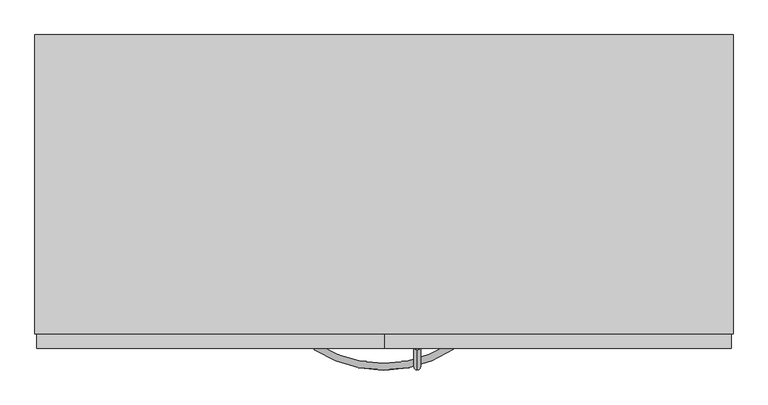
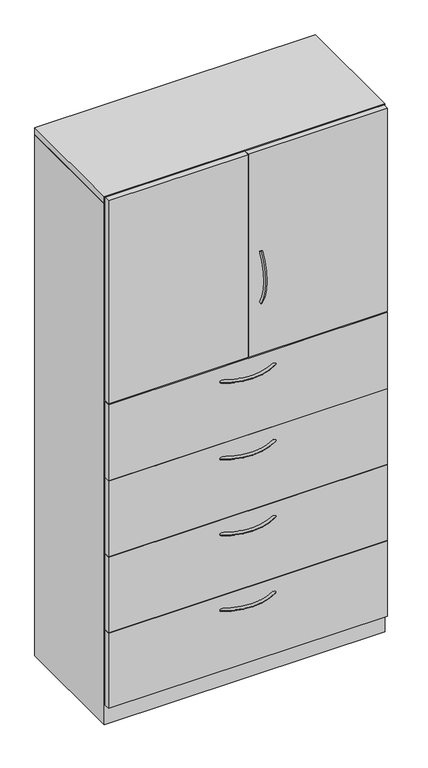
"""IFC4 building model written with IfcOpenShell, lengths in millimetres: furniture geometry, Steelcase - Universal Storage - Cabinet - Combination - Proud Steel : 83 1/2H - Hinged Doors/4 Drawers - 18 7/8D x 42W."""

import ifcopenshell
import ifcopenshell.guid

model = None  # the IFC model being written
_history = None  # IfcOwnerHistory: only IFC2X3 demands one
_inside = {}  # id of a spatial element -> (the spatial element, [elements in it])
_under = {}  # id of a project, library or spatial element -> (it, [spatial elements below it])
_declared = {}  # id of a project -> (the project, [libraries it declares])
_typed = {}  # id of a type object -> (the type object, [elements of that type])
_made_of = {}  # id of a material, layer set ... -> (it, [elements and type objects made of it])


def new_model(schema):
    """Start an empty IFC model of exactly this schema.

    Asked for "IFC4X3", IfcOpenShell would pick the latest addendum, in which some entities
    have other attributes; the version numbers below select the first issue.
    IFC2X3 requires an IfcOwnerHistory on every rooted entity: one is made here for all.
    """
    global model, _history
    if schema == "IFC4X3":
        model = ifcopenshell.file(schema_version=(4, 3, 0, 0))
    else:
        model = ifcopenshell.file(schema=schema)
    _inside.clear()
    _under.clear()
    _declared.clear()
    _typed.clear()
    _made_of.clear()
    _history = None
    if model.schema == "IFC2X3":
        org = make("IfcOrganization", Name="unknown")
        user = make(
            "IfcPersonAndOrganization",
            ThePerson=make("IfcPerson", FamilyName="unknown"),
            TheOrganization=org,
        )
        app = make(
            "IfcApplication",
            ApplicationDeveloper=org,
            Version="unknown",
            ApplicationFullName="unknown",
            ApplicationIdentifier="unknown",
        )
        _history = make(
            "IfcOwnerHistory",
            OwningUser=user,
            OwningApplication=app,
            ChangeAction="ADDED",
            CreationDate=0,
        )
    return model


def make(cls, **values):
    """One entity of the class cls with the attributes given. An attribute that is None is left unset."""
    return model.create_entity(
        cls, **{name: value for name, value in values.items() if value is not None}
    )


def rooted(cls, **values):
    """An entity with a GlobalId (a new one), such as an element, a storey or a relation."""
    return make(cls, GlobalId=ifcopenshell.guid.new(), OwnerHistory=_history, **values)


def si_unit(unit_type, name, prefix=None):
    """IfcSIUnit, for example si_unit("LENGTHUNIT", "METRE", prefix="MILLI")."""
    return make("IfcSIUnit", UnitType=unit_type, Prefix=prefix, Name=name)


def assignment(units):
    """IfcUnitAssignment: the units of a project."""
    return None if units is None else make("IfcUnitAssignment", Units=units)


def point(xyz):
    """IfcCartesianPoint."""
    return None if xyz is None else make("IfcCartesianPoint", Coordinates=xyz)


def direction(xyz):
    """IfcDirection."""
    return None if xyz is None else make("IfcDirection", DirectionRatios=xyz)


def frame(location, z_axis=None, x_axis=None):
    """IfcAxis2Placement3D, a coordinate frame: its origin and axes. An axis left out is left unset."""
    return make(
        "IfcAxis2Placement3D",
        Location=point(location),
        Axis=direction(z_axis),
        RefDirection=direction(x_axis),
    )


def origin():
    """The frame at (0, 0, 0) with its axes left unset."""
    return frame((0.0, 0.0, 0.0))


def place(relative_to, where):
    """IfcLocalPlacement: puts the frame where relative to a parent placement (None: the world)."""
    return make(
        "IfcLocalPlacement", PlacementRelTo=relative_to, RelativePlacement=where
    )


def context(
    kind, dimensions, precision=None, world=None, true_north=None, identifier=None
):
    """IfcGeometricRepresentationContext, for example the 3D "Model" context."""
    return make(
        "IfcGeometricRepresentationContext",
        ContextIdentifier=identifier,
        ContextType=kind,
        CoordinateSpaceDimension=dimensions,
        Precision=precision,
        WorldCoordinateSystem=world,
        TrueNorth=true_north,
    )


def project(units=None, contexts=None):
    """IfcProject with its units and contexts."""
    return rooted(
        "IfcProject",
        Name="project",
        RepresentationContexts=contexts,
        UnitsInContext=assignment(units),
    )


def spatial(cls, under=None, at=None, **own):
    """A site, building, storey or space (cls), placed at a placement, below another one or the project."""
    s = rooted(cls, ObjectPlacement=at, **own)
    if under is not None:
        _under.setdefault(under.id(), (under, []))[1].append(s)
    return s


def polyline(points):
    """IfcPolyline through the points."""
    return make("IfcPolyline", Points=[point(p) for p in points])


def circle_curve(where, radius):
    """IfcCircle in the frame where."""
    return make("IfcCircle", Position=where, Radius=radius)


def ellipse_curve(where, semi_axis1, semi_axis2):
    """IfcEllipse in the frame where."""
    return make(
        "IfcEllipse", Position=where, SemiAxis1=semi_axis1, SemiAxis2=semi_axis2
    )


def trimmed(basis, trim1, trim2, sense, master):
    """IfcTrimmedCurve: the piece of a basis curve between two trims."""
    return make(
        "IfcTrimmedCurve",
        BasisCurve=basis,
        Trim1=trim1,
        Trim2=trim2,
        SenseAgreement=sense,
        MasterRepresentation=master,
    )


def outline(outer, holes=None, kind="AREA"):
    """IfcArbitraryClosedProfileDef: a profile drawn as a closed curve; with holes, ...WithVoids."""
    if holes is None:
        return make("IfcArbitraryClosedProfileDef", ProfileType=kind, OuterCurve=outer)
    return make(
        "IfcArbitraryProfileDefWithVoids",
        ProfileType=kind,
        OuterCurve=outer,
        InnerCurves=holes,
    )


def extrude(swept, where, along, depth):
    """IfcExtrudedAreaSolid: the profile swept, set in the frame where, extruded along a direction by depth."""
    return make(
        "IfcExtrudedAreaSolid",
        SweptArea=swept,
        Position=where,
        ExtrudedDirection=direction(along),
        Depth=depth,
    )


def faces_of(points, faces, orient=None, outer=None):
    """IfcFace entities. A face is a list of loops; a loop is a list of indices into points, from 0.

    orient and outer hold one flag for each loop. By default every Orientation is true, the
    first loop of a face is its IfcFaceOuterBound and the others are IfcFaceBound.
    """
    made = []
    for i, loops in enumerate(faces):
        bounds = []
        for j, loop in enumerate(loops):
            is_outer = j == 0 if outer is None else outer[i][j]
            bounds.append(
                make(
                    "IfcFaceOuterBound" if is_outer else "IfcFaceBound",
                    Bound=make("IfcPolyLoop", Polygon=[points[k] for k in loop]),
                    Orientation=True if orient is None else orient[i][j],
                )
            )
        made.append(make("IfcFace", Bounds=bounds))
    return made


def faceted_brep(points, faces, orient=None, outer=None, voids=None):
    """IfcFacetedBrep: a solid bounded by flat faces; with voids (closed shells), ...WithVoids."""
    shared = [point(p) for p in points]
    hull = make("IfcClosedShell", CfsFaces=faces_of(shared, faces, orient, outer))
    if voids is None:
        return make("IfcFacetedBrep", Outer=hull)
    return make(
        "IfcFacetedBrepWithVoids",
        Outer=hull,
        Voids=[
            make(cls, CfsFaces=faces_of(shared, fs, o, b)) for cls, fs, o, b in voids
        ],
    )


def shape(context_of_items, identifier, shape_type, items):
    """IfcShapeRepresentation: the items that make up one representation, for example the "Body"."""
    return make(
        "IfcShapeRepresentation",
        ContextOfItems=context_of_items,
        RepresentationIdentifier=identifier,
        RepresentationType=shape_type,
        Items=items,
    )


def source(mapping_origin, context_of_items, identifier, shape_type, items):
    """IfcRepresentationMap: a shape defined once, which mapped items show again and again."""
    return make(
        "IfcRepresentationMap",
        MappingOrigin=mapping_origin,
        MappedRepresentation=shape(context_of_items, identifier, shape_type, items),
    )


def transform(
    local_origin,
    x_axis=None,
    y_axis=None,
    z_axis=None,
    scale=None,
    scale2=None,
    scale3=None,
    uniform=True,
):
    """IfcCartesianTransformationOperator3D, or its non-uniform kind. x_axis, y_axis, z_axis: its Axis1, 2, 3."""
    if uniform:
        return make(
            "IfcCartesianTransformationOperator3D",
            Axis1=direction(x_axis),
            Axis2=direction(y_axis),
            LocalOrigin=point(local_origin),
            Scale=scale,
            Axis3=direction(z_axis),
        )
    return make(
        "IfcCartesianTransformationOperator3DnonUniform",
        Axis1=direction(x_axis),
        Axis2=direction(y_axis),
        LocalOrigin=point(local_origin),
        Scale=scale,
        Axis3=direction(z_axis),
        Scale2=scale2,
        Scale3=scale3,
    )


def mapped(mapping_source, mapping_target):
    """IfcMappedItem: shows the shape of a source again, moved by a transform."""
    return make(
        "IfcMappedItem", MappingSource=mapping_source, MappingTarget=mapping_target
    )


def made_of(thing, what):
    """Note that an element or type object is made of a material, layer set ...; save() writes the relation."""
    if what is not None:
        _made_of.setdefault(what.id(), (what, []))[1].append(thing)
    return thing


def element(
    cls,
    number,
    at=None,
    inside=None,
    cuts=None,
    type_object=None,
    material=None,
    context=None,
    identifier="Body",
    shape_type=None,
    held_by="IfcProductDefinitionShape",
    body=None,
    shapes=None,
    **own,
):
    """One element of the class cls, such as IfcWall. Its Tag is "e" and its number.

    at: its placement. inside: the storey or other place that contains it. cuts: it is an
    opening in that element (IfcRelVoidsElement). A single representation is given by context,
    identifier, shape_type and body (its items); several are given by shapes. held_by: the class
    of the entity that holds the representations. save() writes the other relations.
    """
    e = rooted(cls, Tag="e%d" % number, ObjectPlacement=at, **own)
    if body is not None:
        shapes = [shape(context, identifier, shape_type, body)]
    if shapes is not None:
        e.Representation = make(held_by, Representations=shapes)
    if inside is not None:
        _inside.setdefault(inside.id(), (inside, []))[1].append(e)
    if cuts is not None:
        rooted(
            "IfcRelVoidsElement", RelatingBuildingElement=cuts, RelatedOpeningElement=e
        )
    if type_object is not None:
        _typed.setdefault(type_object.id(), (type_object, []))[1].append(e)
    return made_of(e, material)


def aggregate(whole, parts):
    """IfcRelAggregates: a whole, such as a stair, and the parts it consists of."""
    return rooted("IfcRelAggregates", RelatingObject=whole, RelatedObjects=parts)


def save(model, path):
    """Write the relations noted so far, then the file.

    IfcRelAggregates (storeys below a building ...), IfcRelContainedInSpatialStructure (elements
    in a storey), IfcRelDefinesByType, IfcRelAssociatesMaterial and IfcRelDeclares: one each for
    every whole, place, type object, material and project.
    """
    for whole, parts in _under.values():
        aggregate(whole, parts)
    for where, things in _inside.values():
        rooted(
            "IfcRelContainedInSpatialStructure",
            RelatedElements=things,
            RelatingStructure=where,
        )
    for kind, things in _typed.values():
        rooted("IfcRelDefinesByType", RelatedObjects=things, RelatingType=kind)
    for what, things in _made_of.values():
        rooted("IfcRelAssociatesMaterial", RelatedObjects=things, RelatingMaterial=what)
    for by, libraries in _declared.values():
        rooted("IfcRelDeclares", RelatingContext=by, RelatedDefinitions=libraries)
    model.write(path)


def plane_surface(at):
    """IfcPlane: the flat surface through the origin of the frame at, square to its z axis."""
    return make("IfcPlane", Position=at)


def revolved_surface(curve, axis_point, axis_direction):
    """IfcSurfaceOfRevolution: the curve turned about the line through axis_point along axis_direction."""
    return make(
        "IfcSurfaceOfRevolution",
        SweptCurve=make("IfcArbitraryOpenProfileDef", ProfileType="CURVE", Curve=curve),
        AxisPosition=make("IfcAxis1Placement", Location=point(axis_point), Axis=direction(axis_direction)),
    )


def advanced_brep(points, edges, surfaces, faces):
    """IfcAdvancedBrep: a solid bounded by faces that lie on surfaces and meet in shared edges.

    An edge is (start, end): straight between two places in points (the first is 0);
    or (start, end, curve); or (start, end, curve, False) where it runs against its curve.
    A face is (place in surfaces, loops), or (place, loops, False) where it looks against
    its surface's normal. A loop lists edges by number (the first is 1), with a minus sign
    where the edge is run from its end to its start. The first loop is the outer one.
    """
    corners = [point(p) for p in points]
    vertices = [make("IfcVertexPoint", VertexGeometry=c) for c in corners]
    made = []
    for start, end, *more in edges:
        made.append(
            make(
                "IfcEdgeCurve",
                EdgeStart=vertices[start],
                EdgeEnd=vertices[end],
                EdgeGeometry=more[0] if more else make("IfcPolyline", Points=[corners[start], corners[end]]),
                SameSense=more[1] if len(more) > 1 else True,
            )
        )
    hull = []
    for where, loops, *sense in faces:
        bounds = []
        for j, loop in enumerate(loops):
            ring = [make("IfcOrientedEdge", EdgeElement=made[abs(k) - 1], Orientation=k > 0) for k in loop]
            bounds.append(
                make(
                    "IfcFaceOuterBound" if j == 0 else "IfcFaceBound",
                    Bound=make("IfcEdgeLoop", EdgeList=ring),
                    Orientation=True,
                )
            )
        hull.append(make("IfcAdvancedFace", Bounds=bounds, FaceSurface=surfaces[where], SameSense=sense[0] if sense else True))
    return make("IfcAdvancedBrep", Outer=make("IfcClosedShell", CfsFaces=hull))


def furniture_3c727723(model_context):
    return source(origin(), model_context, "Body", "SolidModel", [
        extrude(outline(polyline([(1063.6225413, -479.552), (3.1725353, -479.552), (3.1725353, -457.3261219), (1063.6225413, -457.3261219), (1063.6225413, -479.552)])), frame((0.0, 0.0, 77.724), z_axis=(0.0, 0.0, 1.0), x_axis=(1.0, 0.0, 0.0)), (0.0, 0.0, 1.0), 303.276),
        extrude(outline(polyline([(1063.6225413, -479.552), (3.1725353, -479.552), (3.1725353, -457.3261219), (1063.6225413, -457.3261219), (1063.6225413, -479.552)])), frame((0.0, 0.0, 382.524), z_axis=(0.0, 0.0, 1.0), x_axis=(1.0, 0.0, 0.0)), (0.0, 0.0, 1.0), 303.276),
        extrude(outline(polyline([(1063.6225413, -479.552), (3.1725353, -479.552), (3.1725353, -457.3261219), (1063.6225413, -457.3261219), (1063.6225413, -479.552)])), frame((0.0, 0.0, 687.3240349), z_axis=(0.0, 0.0, 1.0), x_axis=(1.0, 0.0, 0.0)), (0.0, 0.0, 1.0), 303.2759651),
        extrude(outline(polyline([(1063.6225413, -479.552), (3.1725353, -479.552), (3.1725353, -457.3261219), (1063.6225413, -457.3261219), (1063.6225413, -479.552)])), frame((0.0, 0.0, 992.1240349), z_axis=(0.0, 0.0, 1.0), x_axis=(1.0, 0.0, 0.0)), (0.0, 0.0, 1.0), 306.4509893),
        extrude(outline(polyline([(533.4, -479.552), (3.1725353, -479.552), (3.1725353, -457.3261219), (533.4, -457.3261219), (533.4, -479.552)])), frame((0.0, 0.0, 1302.3862596), z_axis=(0.0, 0.0, 1.0), x_axis=(1.0, 0.0, 0.0)), (0.0, 0.0, 1.0), 815.34),
        extrude(outline(polyline([(1063.6225413, -479.552), (534.9239992, -479.552), (534.9239992, -457.3261219), (1063.6225413, -457.3261219), (1063.6225413, -479.552)])), frame((0.0, 0.0, 1302.3862596), z_axis=(0.0, 0.0, 1.0), x_axis=(1.0, 0.0, 0.0)), (0.0, 0.0, 1.0), 815.34),
        advanced_brep(
        [(584.1682496, -481.5705994, 1714.523666), (584.1682496, -473.0108019, 1709.0505073), (584.1682496, -481.1337636, 1502.2167456), (584.1682496, -472.5965612, 1507.7250825)],
        [
            (0, 1, circle_curve(frame((584.1682496, -477.2907007, 1711.7870866), z_axis=(0.0, 0.5386967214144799, 0.842499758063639), x_axis=(0.0, 0.842499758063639, -0.5386967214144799)), 5.08)),
            (1, 0, circle_curve(frame((584.1682496, -477.2907007, 1711.7870866), z_axis=(0.0, 0.5386967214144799, 0.842499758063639), x_axis=(0.0, 0.842499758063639, -0.5386967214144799)), 5.08)),
            (2, 3, circle_curve(frame((584.1682496, -476.8651624, 1504.9709141), z_axis=(0.0, 0.5421591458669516, -0.8402758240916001), x_axis=(0.0, 0.8402758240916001, 0.5421591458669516)), 5.08)),
            (3, 2, circle_curve(frame((584.1682496, -476.8651624, 1504.9709141), z_axis=(0.0, 0.5421591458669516, -0.8402758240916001), x_axis=(0.0, 0.8402758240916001, 0.5421591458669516)), 5.08)),
            (3, 1, circle_curve(frame((584.1682496, -316.0827352, 1608.7102589), z_axis=(-1.0, 0.0, 0.0), x_axis=(0.0, -0.8424997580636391, 0.5386967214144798)), 186.2648211)),
            (0, 2, circle_curve(frame((584.1682496, -316.0827352, 1608.7102589), z_axis=(1.0, 0.0, 0.0), x_axis=(0.0, -0.8424997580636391, 0.5386967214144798)), 196.4248211)),
        ],
        [
            plane_surface(frame((584.9619996, -476.6365286, 1711.3688072), z_axis=(0.0, 0.5386967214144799, 0.8424997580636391), x_axis=(1.0, 0.0, 0.0))),
            plane_surface(frame((584.9619996, -476.2127171, 1505.391882), z_axis=(0.0, 0.5421591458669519, -0.8402758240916), x_axis=(1.0, 0.0, 0.0))),
            revolved_surface(trimmed(ellipse_curve(frame((584.1682496, -477.2907007, 1711.7870866), z_axis=(0.0, 0.5386967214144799, 0.842499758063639), x_axis=(0.0, 0.842499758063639, -0.5386967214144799)), 5.08, 5.08), [point((584.1682496, -481.5705994, 1714.523666))], [point((584.1682496, -473.0108019, 1709.0505073))], True, "CARTESIAN"), (584.9619996, -316.0827352, 1608.7102589), (1.0, 0.0, 0.0)),
            revolved_surface(trimmed(ellipse_curve(frame((584.1682496, -477.2907007, 1711.7870866), z_axis=(0.0, 0.5386967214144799, 0.842499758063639), x_axis=(0.0, 0.842499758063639, -0.5386967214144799)), 5.08, 5.08), [point((584.1682496, -473.0108019, 1709.0505073))], [point((584.1682496, -481.5705994, 1714.523666))], True, "CARTESIAN"), (584.9619996, -316.0827352, 1608.7102589), (1.0, 0.0, 0.0)),
        ],
        [
            (0, [[1, 2]]),
            (1, [[3, 4]]),
            (2, [[5, -1, 6, -4]]),
            (3, [[-6, -2, -5, -3]]),
        ],
    ),
        advanced_brep(
        [(426.8245932, -481.5705994, 1240.6312742), (432.2977519, -473.0108019, 1240.6312742), (639.1315136, -481.1337636, 1240.6312742), (633.6231767, -472.5965612, 1240.6312742)],
        [
            (0, 1, circle_curve(frame((429.5611726, -477.2907007, 1240.6312742), z_axis=(-0.8424997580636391, 0.5386967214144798, 0.0), x_axis=(0.5386967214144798, 0.8424997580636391, 0.0)), 5.08)),
            (1, 0, circle_curve(frame((429.5611726, -477.2907007, 1240.6312742), z_axis=(-0.8424997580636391, 0.5386967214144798, 0.0), x_axis=(0.5386967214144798, 0.8424997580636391, 0.0)), 5.08)),
            (2, 3, circle_curve(frame((636.3773452, -476.8651624, 1240.6312742), z_axis=(0.8402758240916, 0.5421591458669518, 0.0), x_axis=(-0.5421591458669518, 0.8402758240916, 0.0)), 5.08)),
            (3, 2, circle_curve(frame((636.3773452, -476.8651624, 1240.6312742), z_axis=(0.8402758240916, 0.5421591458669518, 0.0), x_axis=(-0.5421591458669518, 0.8402758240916, 0.0)), 5.08)),
            (3, 1, circle_curve(frame((532.6380004, -316.0827352, 1240.6312742), z_axis=(0.0, 0.0, -1.0), x_axis=(-0.5386967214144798, -0.8424997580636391, 0.0)), 186.2648211)),
            (0, 2, circle_curve(frame((532.6380004, -316.0827352, 1240.6312742), z_axis=(0.0, 0.0, 1.0), x_axis=(-0.5386967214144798, -0.8424997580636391, 0.0)), 196.4248211)),
        ],
        [
            plane_surface(frame((429.9794521, -476.6365286, 1241.4250242), z_axis=(-0.8424997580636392, 0.5386967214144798, 0.0), x_axis=(0.0, 0.0, 1.0))),
            plane_surface(frame((635.9563772, -476.2127171, 1241.4250242), z_axis=(0.8402758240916, 0.5421591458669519, 0.0), x_axis=(0.0, 0.0, 1.0))),
            revolved_surface(trimmed(ellipse_curve(frame((429.5611726, -477.2907007, 1240.6312742), z_axis=(-0.8424997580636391, 0.5386967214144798, 0.0), x_axis=(0.5386967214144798, 0.8424997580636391, 0.0)), 5.08, 5.08), [point((426.8245932, -481.5705994, 1240.6312742))], [point((432.2977519, -473.0108019, 1240.6312742))], True, "CARTESIAN"), (532.6380004, -316.0827352, 1241.4250242), (0.0, 0.0, 1.0)),
            revolved_surface(trimmed(ellipse_curve(frame((429.5611726, -477.2907007, 1240.6312742), z_axis=(-0.8424997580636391, 0.5386967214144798, 0.0), x_axis=(0.5386967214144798, 0.8424997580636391, 0.0)), 5.08, 5.08), [point((432.2977519, -473.0108019, 1240.6312742))], [point((426.8245932, -481.5705994, 1240.6312742))], True, "CARTESIAN"), (532.6380004, -316.0827352, 1241.4250242), (0.0, 0.0, 1.0)),
        ],
        [
            (0, [[1, 2]]),
            (1, [[3, 4]]),
            (2, [[5, -1, 6, -4]]),
            (3, [[-6, -2, -5, -3]]),
        ],
    ),
        advanced_brep(
        [(426.8245932, -481.5705994, 323.56425), (432.2977519, -473.0108019, 323.56425), (639.1315136, -481.1337636, 323.56425), (633.6231767, -472.5965612, 323.56425)],
        [
            (0, 1, circle_curve(frame((429.5611726, -477.2907007, 323.56425), z_axis=(-0.8424997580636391, 0.5386967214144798, 0.0), x_axis=(0.5386967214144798, 0.8424997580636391, 0.0)), 5.08)),
            (1, 0, circle_curve(frame((429.5611726, -477.2907007, 323.56425), z_axis=(-0.8424997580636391, 0.5386967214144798, 0.0), x_axis=(0.5386967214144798, 0.8424997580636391, 0.0)), 5.08)),
            (2, 3, circle_curve(frame((636.3773452, -476.8651624, 323.56425), z_axis=(0.8402758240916, 0.5421591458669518, 0.0), x_axis=(-0.5421591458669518, 0.8402758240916, 0.0)), 5.08)),
            (3, 2, circle_curve(frame((636.3773452, -476.8651624, 323.56425), z_axis=(0.8402758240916, 0.5421591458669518, 0.0), x_axis=(-0.5421591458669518, 0.8402758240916, 0.0)), 5.08)),
            (3, 1, circle_curve(frame((532.6380004, -316.0827352, 323.56425), z_axis=(0.0, 0.0, -1.0), x_axis=(-0.5386967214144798, -0.8424997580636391, 0.0)), 186.2648211)),
            (0, 2, circle_curve(frame((532.6380004, -316.0827352, 323.56425), z_axis=(0.0, 0.0, 1.0), x_axis=(-0.5386967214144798, -0.8424997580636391, 0.0)), 196.4248211)),
        ],
        [
            plane_surface(frame((429.9794521, -476.6365286, 324.358), z_axis=(-0.8424997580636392, 0.5386967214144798, 0.0), x_axis=(0.0, 0.0, 1.0))),
            plane_surface(frame((635.9563772, -476.2127171, 324.358), z_axis=(0.8402758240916, 0.5421591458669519, 0.0), x_axis=(0.0, 0.0, 1.0))),
            revolved_surface(trimmed(ellipse_curve(frame((429.5611726, -477.2907007, 323.56425), z_axis=(-0.8424997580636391, 0.5386967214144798, 0.0), x_axis=(0.5386967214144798, 0.8424997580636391, 0.0)), 5.08, 5.08), [point((426.8245932, -481.5705994, 323.56425))], [point((432.2977519, -473.0108019, 323.56425))], True, "CARTESIAN"), (532.6380004, -316.0827352, 324.358), (0.0, 0.0, 1.0)),
            revolved_surface(trimmed(ellipse_curve(frame((429.5611726, -477.2907007, 323.56425), z_axis=(-0.8424997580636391, 0.5386967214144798, 0.0), x_axis=(0.5386967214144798, 0.8424997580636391, 0.0)), 5.08, 5.08), [point((432.2977519, -473.0108019, 323.56425))], [point((426.8245932, -481.5705994, 323.56425))], True, "CARTESIAN"), (532.6380004, -316.0827352, 324.358), (0.0, 0.0, 1.0)),
        ],
        [
            (0, [[1, 2]]),
            (1, [[3, 4]]),
            (2, [[5, -1, 6, -4]]),
            (3, [[-6, -2, -5, -3]]),
        ],
    ),
        advanced_brep(
        [(426.8245932, -481.5705994, 627.85625), (432.2977519, -473.0108019, 627.85625), (639.1315136, -481.1337636, 627.85625), (633.6231767, -472.5965612, 627.85625)],
        [
            (0, 1, circle_curve(frame((429.5611726, -477.2907007, 627.85625), z_axis=(-0.8424997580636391, 0.5386967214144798, 0.0), x_axis=(0.5386967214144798, 0.8424997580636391, 0.0)), 5.08)),
            (1, 0, circle_curve(frame((429.5611726, -477.2907007, 627.85625), z_axis=(-0.8424997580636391, 0.5386967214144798, 0.0), x_axis=(0.5386967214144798, 0.8424997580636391, 0.0)), 5.08)),
            (2, 3, circle_curve(frame((636.3773452, -476.8651624, 627.85625), z_axis=(0.8402758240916, 0.5421591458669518, 0.0), x_axis=(-0.5421591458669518, 0.8402758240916, 0.0)), 5.08)),
            (3, 2, circle_curve(frame((636.3773452, -476.8651624, 627.85625), z_axis=(0.8402758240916, 0.5421591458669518, 0.0), x_axis=(-0.5421591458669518, 0.8402758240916, 0.0)), 5.08)),
            (3, 1, circle_curve(frame((532.6380004, -316.0827352, 627.85625), z_axis=(0.0, 0.0, -1.0), x_axis=(-0.5386967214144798, -0.8424997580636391, 0.0)), 186.2648211)),
            (0, 2, circle_curve(frame((532.6380004, -316.0827352, 627.85625), z_axis=(0.0, 0.0, 1.0), x_axis=(-0.5386967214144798, -0.8424997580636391, 0.0)), 196.4248211)),
        ],
        [
            plane_surface(frame((429.9794521, -476.6365286, 628.65), z_axis=(-0.8424997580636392, 0.5386967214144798, 0.0), x_axis=(0.0, 0.0, 1.0))),
            plane_surface(frame((635.9563772, -476.2127171, 628.65), z_axis=(0.8402758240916, 0.5421591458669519, 0.0), x_axis=(0.0, 0.0, 1.0))),
            revolved_surface(trimmed(ellipse_curve(frame((429.5611726, -477.2907007, 627.85625), z_axis=(-0.8424997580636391, 0.5386967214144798, 0.0), x_axis=(0.5386967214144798, 0.8424997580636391, 0.0)), 5.08, 5.08), [point((426.8245932, -481.5705994, 627.85625))], [point((432.2977519, -473.0108019, 627.85625))], True, "CARTESIAN"), (532.6380004, -316.0827352, 628.65), (0.0, 0.0, 1.0)),
            revolved_surface(trimmed(ellipse_curve(frame((429.5611726, -477.2907007, 627.85625), z_axis=(-0.8424997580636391, 0.5386967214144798, 0.0), x_axis=(0.5386967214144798, 0.8424997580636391, 0.0)), 5.08, 5.08), [point((432.2977519, -473.0108019, 627.85625))], [point((426.8245932, -481.5705994, 627.85625))], True, "CARTESIAN"), (532.6380004, -316.0827352, 628.65), (0.0, 0.0, 1.0)),
        ],
        [
            (0, [[1, 2]]),
            (1, [[3, 4]]),
            (2, [[5, -1, 6, -4]]),
            (3, [[-6, -2, -5, -3]]),
        ],
    ),
        advanced_brep(
        [(426.8245932, -481.5705994, 932.65625), (432.2977519, -473.0108019, 932.65625), (639.1315136, -481.1337636, 932.65625), (633.6231767, -472.5965612, 932.65625)],
        [
            (0, 1, circle_curve(frame((429.5611726, -477.2907007, 932.65625), z_axis=(-0.8424997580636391, 0.5386967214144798, 0.0), x_axis=(0.5386967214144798, 0.8424997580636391, 0.0)), 5.08)),
            (1, 0, circle_curve(frame((429.5611726, -477.2907007, 932.65625), z_axis=(-0.8424997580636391, 0.5386967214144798, 0.0), x_axis=(0.5386967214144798, 0.8424997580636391, 0.0)), 5.08)),
            (2, 3, circle_curve(frame((636.3773452, -476.8651624, 932.65625), z_axis=(0.8402758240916, 0.5421591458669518, 0.0), x_axis=(-0.5421591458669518, 0.8402758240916, 0.0)), 5.08)),
            (3, 2, circle_curve(frame((636.3773452, -476.8651624, 932.65625), z_axis=(0.8402758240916, 0.5421591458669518, 0.0), x_axis=(-0.5421591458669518, 0.8402758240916, 0.0)), 5.08)),
            (3, 1, circle_curve(frame((532.6380004, -316.0827352, 932.65625), z_axis=(0.0, 0.0, -1.0), x_axis=(-0.5386967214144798, -0.8424997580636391, 0.0)), 186.2648211)),
            (0, 2, circle_curve(frame((532.6380004, -316.0827352, 932.65625), z_axis=(0.0, 0.0, 1.0), x_axis=(-0.5386967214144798, -0.8424997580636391, 0.0)), 196.4248211)),
        ],
        [
            plane_surface(frame((429.9794521, -476.6365286, 933.45), z_axis=(-0.8424997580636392, 0.5386967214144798, 0.0), x_axis=(0.0, 0.0, 1.0))),
            plane_surface(frame((635.9563772, -476.2127171, 933.45), z_axis=(0.8402758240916, 0.5421591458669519, 0.0), x_axis=(0.0, 0.0, 1.0))),
            revolved_surface(trimmed(ellipse_curve(frame((429.5611726, -477.2907007, 932.65625), z_axis=(-0.8424997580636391, 0.5386967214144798, 0.0), x_axis=(0.5386967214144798, 0.8424997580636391, 0.0)), 5.08, 5.08), [point((426.8245932, -481.5705994, 932.65625))], [point((432.2977519, -473.0108019, 932.65625))], True, "CARTESIAN"), (532.6380004, -316.0827352, 933.45), (0.0, 0.0, 1.0)),
            revolved_surface(trimmed(ellipse_curve(frame((429.5611726, -477.2907007, 932.65625), z_axis=(-0.8424997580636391, 0.5386967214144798, 0.0), x_axis=(0.5386967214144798, 0.8424997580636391, 0.0)), 5.08, 5.08), [point((432.2977519, -473.0108019, 932.65625))], [point((426.8245932, -481.5705994, 932.65625))], True, "CARTESIAN"), (532.6380004, -316.0827352, 933.45), (0.0, 0.0, 1.0)),
        ],
        [
            (0, [[1, 2]]),
            (1, [[3, 4]]),
            (2, [[5, -1, 6, -4]]),
            (3, [[-6, -2, -5, -3]]),
        ],
    ),
        faceted_brep([(25.4000008, -457.3261219, 76.2), (1041.4000242, -457.3261219, 76.2), (1041.4000242, -25.4000008, 76.2), (25.4000008, -25.4000008, 76.2), (1066.8, 0.0, 0.0), (1066.8, -457.3261219, 0.0), (0.0, -457.3261219, 0.0), (0.0, 0.0, 0.0), (0.0, 0.0, 2093.976), (1066.8, 0.0, 2093.976), (0.0, -457.3261219, 2093.976), (1066.8, -457.3261219, 2093.976), (1041.4000242, -457.3261219, 2093.976), (25.4000008, -457.3261219, 2093.976), (1041.4000242, -25.4000008, 2093.976), (25.4000008, -25.4000008, 2093.976)], [[[0, 1, 2, 3]], [[4, 5, 6, 7]], [[4, 7, 8, 9]], [[8, 7, 6, 10]], [[10, 6, 5, 11, 12, 1, 0, 13]], [[11, 5, 4, 9]], [[14, 12, 11, 9, 8, 10, 13, 15]], [[12, 14, 2, 1]], [[15, 13, 0, 3]], [[14, 15, 3, 2]]]),
        extrude(outline(polyline([(1066.8, 0.0), (1066.8, -457.3261219), (0.0, -457.3261219), (0.0, 0.0), (1066.8, 0.0)])), frame((0.0, 0.0, 2095.4999516), z_axis=(0.0, 0.0, 1.0), x_axis=(1.0, 0.0, 0.0)), (0.0, 0.0, 1.0), 25.4000484),
    ])


if __name__ == "__main__":
    model = new_model("IFC4")
    model_context = context("Model", 3, world=origin())
    ifc_project = project(units=[si_unit("LENGTHUNIT", "METRE", prefix="MILLI")], contexts=[model_context])
    site = spatial("IfcSite", under=ifc_project)
    building = spatial("IfcBuilding", under=site)
    placement = place(None, origin())
    furniture_shape = furniture_3c727723(model_context)
    element("IfcFurniture", 1, ObjectType="Steelcase - Universal Storage - Cabinet - Combination - Proud Steel : 83 1/2H - Hinged Doors/4 Drawers - 18 7/8D x 42W", at=placement, inside=building, context=model_context, shape_type="MappedRepresentation", body=[
        mapped(furniture_shape, transform((0.0, 0.0, 0.0), x_axis=(1.0, 0.0, 0.0), y_axis=(0.0, 1.0, 0.0), z_axis=(0.0, 0.0, 1.0))),
    ])
    save(model, "model.ifc")
